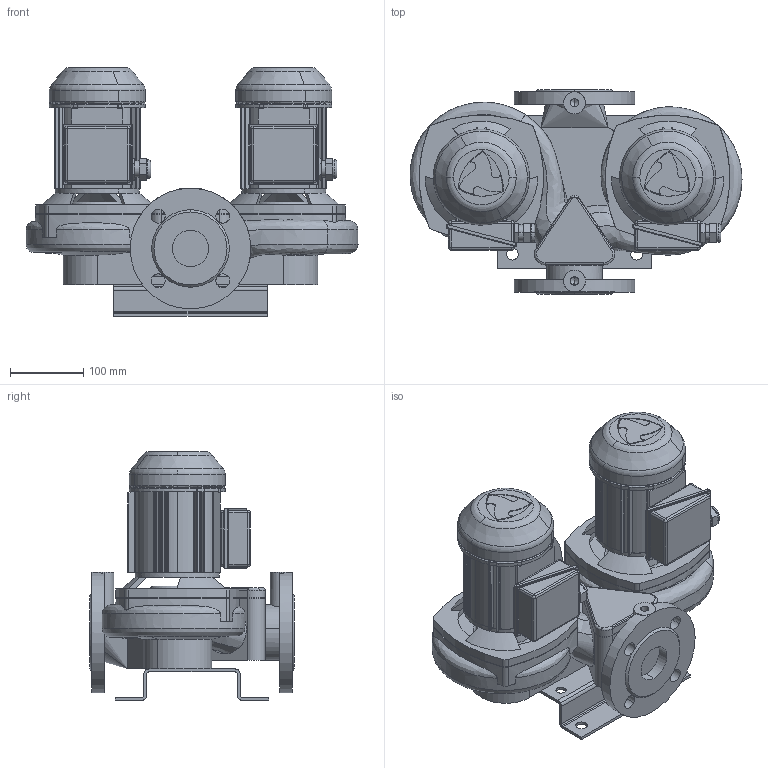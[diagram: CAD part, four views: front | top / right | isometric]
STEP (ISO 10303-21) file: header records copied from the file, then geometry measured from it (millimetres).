
FILE_DESCRIPTION(('STEP AP214'),'1');
FILE_NAME('export.stp','2018-05-30T07:33:40',(' '),(' '),'Spatial InterOp 3D',' ',' ');
FILE_SCHEMA(('AUTOMOTIVE_DESIGN { 1 0 10303 214 1 1 1 1 }'));
Length unit declared in the file: millimetre
Products named in the file (13): V_MOP752753762; RU_OP_752_753_762; TSUOJA_OP_7; KYTKOTELO_OP7_OKN8; W_T50A4250; V_EKF15OP7; V_TLL50ABC; V_PPT50ABC; V_JALKA35973
Assembly tree (14 placements, depth 3):
  W_T50A4250
    V_MOP752753762
      RU_OP_752_753_762
      TSUOJA_OP_7
      KYTKOTELO_OP7_OKN8
    V_MOP752753762
      RU_OP_752_753_762
      TSUOJA_OP_7
      KYTKOTELO_OP7_OKN8
    V_EKF15OP7  x2
    V_TLL50ABC  x2
    V_PPT50ABC
    V_JALKA35973
Bounding box: 454.49 x 280 x 340.6 mm (x, y, z)
Volume: 9002767.5 mm3; surface area: 1134741.6 mm2
Topology: 12 solids, 14 shells, 898 faces, 2403 edges, 1544 vertices
Faces by surface type: cylinder 523, plane 242, cone 40, bspline 35, torus 34, sphere 24
Entity records: 46067 total; most frequent: CARTESIAN_POINT 9044, DIRECTION 4884, ORIENTED_EDGE 4472, STYLED_ITEM 2492, PRESENTATION_STYLE_ASSIGNMENT 2492, COLOUR_RGB 2492, EDGE_CURVE 2236, AXIS2_PLACEMENT_3D 1976
